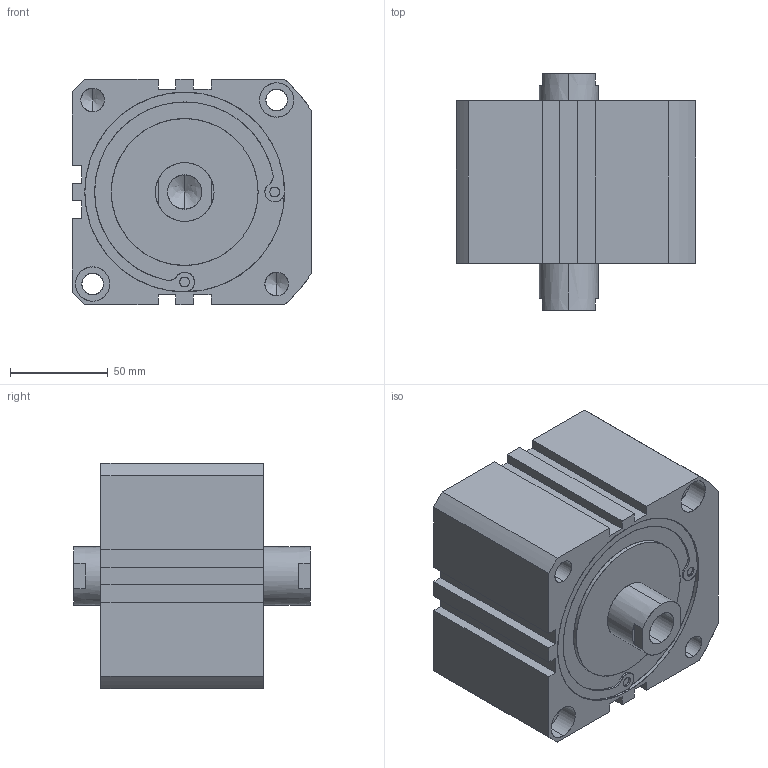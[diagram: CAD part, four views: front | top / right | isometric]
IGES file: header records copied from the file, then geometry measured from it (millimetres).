
Start section: SolidWorks IGES file using analytic representation for surfaces
Global section: file name: C:\Users\Toshiba\Desktop\XC#7-100D-10.IGS; native system: SolidWorks 2014; preprocessor: SolidWorks 2014; author: Toshiba; date: 160523.162859; units: millimetre
Bounding box: 122.5 x 121 x 115 mm (x, y, z)
Surface area: 91355.4 mm2 (no closed solid volume)
Topology: 0 solids, 0 shells, 142 faces, 2636 edges, 2620 vertices
Faces by surface type: revolution 86, bspline 56
